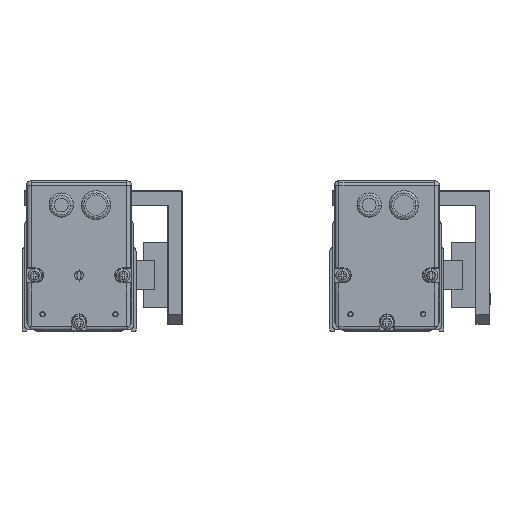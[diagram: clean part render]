
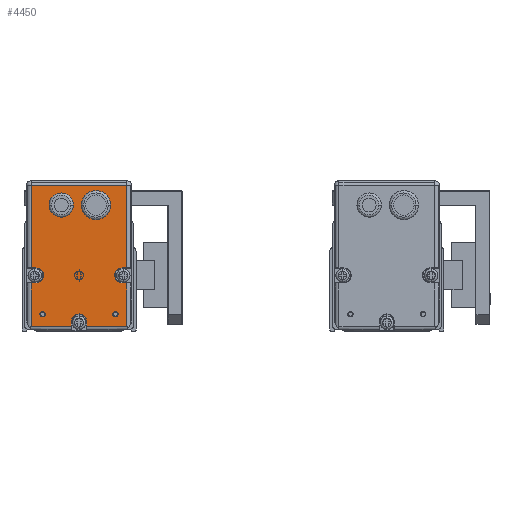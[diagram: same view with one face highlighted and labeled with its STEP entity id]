
A CAD part, left-side view. The second image highlights one B-rep face of the part: STEP entity #4450.
In plain terms, the highlighted planar face has unit normal (-1, 0, 0).
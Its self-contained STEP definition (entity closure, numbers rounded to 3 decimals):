
#4450=ADVANCED_FACE('',(#12109,#12110,#12111),#12112,.F.);
#12109=FACE_OUTER_BOUND('',#23681,.T.);
#12110=FACE_BOUND('',#23682,.T.);
#12111=FACE_BOUND('',#23683,.T.);
#12112=PLANE('',#23684);
#23681=EDGE_LOOP('',(#35531,#35532,#35533,#35534,#35535,#35536,#35537,#35538,#35539,#35540,#35541,#35542,#35543,#35544,#35545,#35546,#35547));
#23682=EDGE_LOOP('',(#35548,#35549));
#23683=EDGE_LOOP('',(#35550,#35551));
#23684=AXIS2_PLACEMENT_3D('',#35552,#35553,#35554);
#35531=ORIENTED_EDGE('',*,*,#68227,.F.);
#35532=ORIENTED_EDGE('',*,*,#68228,.F.);
#35533=ORIENTED_EDGE('',*,*,#68229,.F.);
#35534=ORIENTED_EDGE('',*,*,#68230,.F.);
#35535=ORIENTED_EDGE('',*,*,#68231,.F.);
#35536=ORIENTED_EDGE('',*,*,#68232,.F.);
#35537=ORIENTED_EDGE('',*,*,#68233,.F.);
#35538=ORIENTED_EDGE('',*,*,#68234,.F.);
#35539=ORIENTED_EDGE('',*,*,#68235,.F.);
#35540=ORIENTED_EDGE('',*,*,#68236,.F.);
#35541=ORIENTED_EDGE('',*,*,#68237,.F.);
#35542=ORIENTED_EDGE('',*,*,#68238,.F.);
#35543=ORIENTED_EDGE('',*,*,#68239,.F.);
#35544=ORIENTED_EDGE('',*,*,#68240,.F.);
#35545=ORIENTED_EDGE('',*,*,#68241,.F.);
#35546=ORIENTED_EDGE('',*,*,#68242,.F.);
#35547=ORIENTED_EDGE('',*,*,#68243,.F.);
#35548=ORIENTED_EDGE('',*,*,#68244,.F.);
#35549=ORIENTED_EDGE('',*,*,#68245,.F.);
#35550=ORIENTED_EDGE('',*,*,#68246,.F.);
#35551=ORIENTED_EDGE('',*,*,#68247,.F.);
#35552=CARTESIAN_POINT('',(1159.326,643.579,378.927));
#35553=DIRECTION('',(1.0,0.0,0.0));
#35554=DIRECTION('',(0.0,0.0,-1.0));
#68227=EDGE_CURVE('',#81060,#81061,#81062,.T.);
#68228=EDGE_CURVE('',#81063,#81060,#81064,.T.);
#68229=EDGE_CURVE('',#81065,#81063,#81066,.T.);
#68230=EDGE_CURVE('',#81067,#81065,#81068,.T.);
#68231=EDGE_CURVE('',#81069,#81067,#81070,.T.);
#68232=EDGE_CURVE('',#81071,#81069,#81072,.T.);
#68233=EDGE_CURVE('',#81073,#81071,#81074,.T.);
#68234=EDGE_CURVE('',#81075,#81073,#81076,.T.);
#68235=EDGE_CURVE('',#81077,#81075,#81078,.T.);
#68236=EDGE_CURVE('',#81079,#81077,#81080,.T.);
#68237=EDGE_CURVE('',#81081,#81079,#81082,.T.);
#68238=EDGE_CURVE('',#81083,#81081,#81084,.T.);
#68239=EDGE_CURVE('',#81085,#81083,#81086,.T.);
#68240=EDGE_CURVE('',#81087,#81085,#81088,.T.);
#68241=EDGE_CURVE('',#81089,#81087,#81090,.T.);
#68242=EDGE_CURVE('',#81091,#81089,#81092,.T.);
#68243=EDGE_CURVE('',#81061,#81091,#81093,.T.);
#68244=EDGE_CURVE('',#81094,#81095,#81096,.T.);
#68245=EDGE_CURVE('',#81095,#81094,#81097,.T.);
#68246=EDGE_CURVE('',#81098,#81099,#81100,.T.);
#68247=EDGE_CURVE('',#81099,#81098,#81101,.T.);
#81060=VERTEX_POINT('',#99586);
#81061=VERTEX_POINT('',#99587);
#81062=LINE('',#99588,#99589);
#81063=VERTEX_POINT('',#99590);
#81064=LINE('',#99591,#99592);
#81065=VERTEX_POINT('',#99593);
#81066=LINE('',#99594,#99595);
#81067=VERTEX_POINT('',#99596);
#81068=LINE('',#99597,#99598);
#81069=VERTEX_POINT('',#99599);
#81070=CIRCLE('',#99600,3.1);
#81071=VERTEX_POINT('',#99601);
#81072=CIRCLE('',#99602,3.1);
#81073=VERTEX_POINT('',#99603);
#81074=LINE('',#99604,#99605);
#81075=VERTEX_POINT('',#99606);
#81076=LINE('',#99607,#99608);
#81077=VERTEX_POINT('',#99609);
#81078=LINE('',#99610,#99611);
#81079=VERTEX_POINT('',#99612);
#81080=LINE('',#99613,#99614);
#81081=VERTEX_POINT('',#99615);
#81082=CIRCLE('',#99616,3.1);
#81083=VERTEX_POINT('',#99617);
#81084=LINE('',#99618,#99619);
#81085=VERTEX_POINT('',#99620);
#81086=LINE('',#99621,#99622);
#81087=VERTEX_POINT('',#99623);
#81088=LINE('',#99624,#99625);
#81089=VERTEX_POINT('',#99626);
#81090=LINE('',#99627,#99628);
#81091=VERTEX_POINT('',#99629);
#81092=LINE('',#99630,#99631);
#81093=CIRCLE('',#99632,3.1);
#81094=VERTEX_POINT('',#99633);
#81095=VERTEX_POINT('',#99634);
#81096=CIRCLE('',#99635,1.1);
#81097=CIRCLE('',#99636,1.1);
#81098=VERTEX_POINT('',#99637);
#81099=VERTEX_POINT('',#99638);
#81100=CIRCLE('',#99639,1.1);
#81101=CIRCLE('',#99640,1.1);
#99586=CARTESIAN_POINT('',(1159.326,663.329,367.827));
#99587=CARTESIAN_POINT('',(1159.326,661.329,367.827));
#99588=CARTESIAN_POINT('',(1159.326,652.704,367.827));
#99589=VECTOR('',#123397,1.0);
#99590=CARTESIAN_POINT('',(1159.326,663.329,349.927));
#99591=CARTESIAN_POINT('',(1159.326,663.329,378.927));
#99592=VECTOR('',#123398,1.0);
#99593=CARTESIAN_POINT('',(1159.326,646.679,349.927));
#99594=CARTESIAN_POINT('',(1159.326,643.579,349.927));
#99595=VECTOR('',#123399,1.0);
#99596=CARTESIAN_POINT('',(1159.326,646.679,351.927));
#99597=CARTESIAN_POINT('',(1159.326,646.679,365.177));
#99598=VECTOR('',#123400,1.0);
#99599=CARTESIAN_POINT('',(1159.326,643.579,355.027));
#99600=AXIS2_PLACEMENT_3D('',#123401,#123402,#123403);
#99601=CARTESIAN_POINT('',(1159.326,640.479,351.927));
#99602=AXIS2_PLACEMENT_3D('',#123404,#123405,#123406);
#99603=CARTESIAN_POINT('',(1159.326,640.479,349.927));
#99604=CARTESIAN_POINT('',(1159.326,640.479,365.177));
#99605=VECTOR('',#123407,1.0);
#99606=CARTESIAN_POINT('',(1159.326,623.829,349.927));
#99607=CARTESIAN_POINT('',(1159.326,643.579,349.927));
#99608=VECTOR('',#123408,1.0);
#99609=CARTESIAN_POINT('',(1159.326,623.829,367.827));
#99610=CARTESIAN_POINT('',(1159.326,623.829,378.927));
#99611=VECTOR('',#123409,1.0);
#99612=CARTESIAN_POINT('',(1159.326,625.829,367.827));
#99613=CARTESIAN_POINT('',(1159.326,634.454,367.827));
#99614=VECTOR('',#123410,1.0);
#99615=CARTESIAN_POINT('',(1159.326,625.829,374.027));
#99616=AXIS2_PLACEMENT_3D('',#123411,#123412,#123413);
#99617=CARTESIAN_POINT('',(1159.326,623.829,374.027));
#99618=CARTESIAN_POINT('',(1159.326,634.454,374.027));
#99619=VECTOR('',#123414,1.0);
#99620=CARTESIAN_POINT('',(1159.326,623.829,407.927));
#99621=CARTESIAN_POINT('',(1159.326,623.829,378.927));
#99622=VECTOR('',#123415,1.0);
#99623=CARTESIAN_POINT('',(1159.326,663.329,407.927));
#99624=CARTESIAN_POINT('',(1159.326,643.579,407.927));
#99625=VECTOR('',#123416,1.0);
#99626=CARTESIAN_POINT('',(1159.326,663.329,374.027));
#99627=CARTESIAN_POINT('',(1159.326,663.329,378.927));
#99628=VECTOR('',#123417,1.0);
#99629=CARTESIAN_POINT('',(1159.326,661.329,374.027));
#99630=CARTESIAN_POINT('',(1159.326,652.704,374.027));
#99631=VECTOR('',#123418,1.0);
#99632=AXIS2_PLACEMENT_3D('',#123419,#123420,#123421);
#99633=CARTESIAN_POINT('',(1159.326,628.579,356.027));
#99634=CARTESIAN_POINT('',(1159.326,628.579,353.827));
#99635=AXIS2_PLACEMENT_3D('',#123422,#123423,#123424);
#99636=AXIS2_PLACEMENT_3D('',#123425,#123426,#123427);
#99637=CARTESIAN_POINT('',(1159.326,658.579,356.027));
#99638=CARTESIAN_POINT('',(1159.326,658.579,353.827));
#99639=AXIS2_PLACEMENT_3D('',#123428,#123429,#123430);
#99640=AXIS2_PLACEMENT_3D('',#123431,#123432,#123433);
#123397=DIRECTION('',(0.0,-1.0,0.0));
#123398=DIRECTION('',(0.0,0.0,1.0));
#123399=DIRECTION('',(0.0,1.0,0.0));
#123400=DIRECTION('',(0.0,0.0,-1.0));
#123401=CARTESIAN_POINT('',(1159.326,643.579,351.927));
#123402=DIRECTION('',(-1.0,0.0,0.0));
#123403=DIRECTION('',(0.0,0.0,1.0));
#123404=CARTESIAN_POINT('',(1159.326,643.579,351.927));
#123405=DIRECTION('',(-1.0,0.0,0.0));
#123406=DIRECTION('',(0.0,0.0,1.0));
#123407=DIRECTION('',(0.0,0.0,1.0));
#123408=DIRECTION('',(0.0,1.0,0.0));
#123409=DIRECTION('',(0.0,0.0,-1.0));
#123410=DIRECTION('',(0.0,-1.0,0.0));
#123411=CARTESIAN_POINT('',(1159.326,625.829,370.927));
#123412=DIRECTION('',(-1.0,0.0,0.0));
#123413=DIRECTION('',(0.0,1.0,0.));
#123414=DIRECTION('',(0.0,1.0,0.0));
#123415=DIRECTION('',(0.0,0.0,-1.0));
#123416=DIRECTION('',(0.0,-1.0,0.0));
#123417=DIRECTION('',(0.0,0.0,1.0));
#123418=DIRECTION('',(0.0,1.0,0.0));
#123419=CARTESIAN_POINT('',(1159.326,661.329,370.927));
#123420=DIRECTION('',(-1.0,0.0,0.0));
#123421=DIRECTION('',(0.0,-1.0,0.));
#123422=CARTESIAN_POINT('',(1159.326,628.579,354.927));
#123423=DIRECTION('',(-1.0,0.0,0.0));
#123424=DIRECTION('',(0.0,0.0,-1.0));
#123425=CARTESIAN_POINT('',(1159.326,628.579,354.927));
#123426=DIRECTION('',(-1.0,0.0,0.0));
#123427=DIRECTION('',(0.0,0.0,-1.0));
#123428=CARTESIAN_POINT('',(1159.326,658.579,354.927));
#123429=DIRECTION('',(-1.0,0.0,0.0));
#123430=DIRECTION('',(0.0,0.0,-1.0));
#123431=CARTESIAN_POINT('',(1159.326,658.579,354.927));
#123432=DIRECTION('',(-1.0,0.0,0.0));
#123433=DIRECTION('',(0.0,0.0,-1.0));
